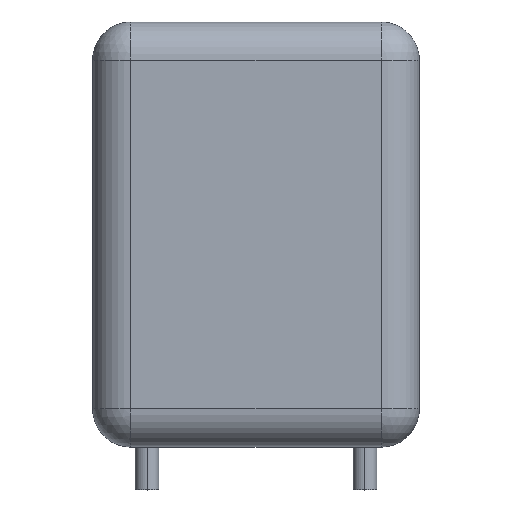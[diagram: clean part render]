
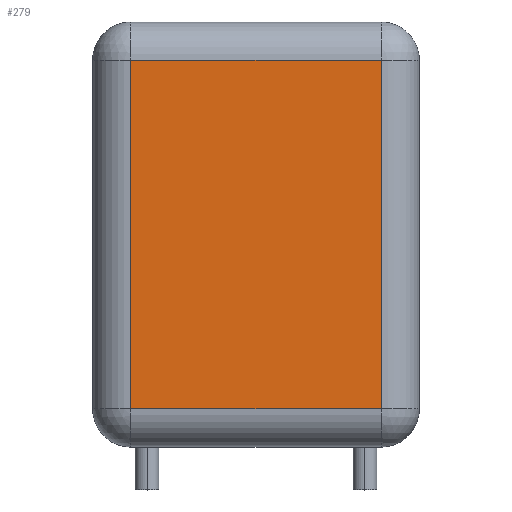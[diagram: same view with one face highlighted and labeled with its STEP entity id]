
A CAD part, top view. The second image highlights one B-rep face of the part: STEP entity #279.
In plain terms, the highlighted planar face has unit normal (0, 0, 1).
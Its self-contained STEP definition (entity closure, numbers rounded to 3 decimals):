
#240 = CARTESIAN_POINT ( 'NONE',  ( -2.915, 0.895, 1.905 ) ) ;
#241 = VERTEX_POINT ( 'NONE', #240 ) ;
#242 = CARTESIAN_POINT ( 'NONE',  ( 2.915, 0.895, 1.905 ) ) ;
#243 = VERTEX_POINT ( 'NONE', #242 ) ;
#244 = CARTESIAN_POINT ( 'NONE',  ( 3.81, 0.895, 1.905 ) ) ;
#245 = DIRECTION ( 'NONE',  ( 1., 0., 0. ) ) ;
#246 = VECTOR ( 'NONE', #245, 1000. ) ;
#247 = LINE ( 'NONE', #244, #246 ) ;
#248 = EDGE_CURVE ( 'NONE', #241, #243, #247, .T. ) ;
#249 = ORIENTED_EDGE ( 'NONE', *, *, #248, .T. ) ;
#250 = CARTESIAN_POINT ( 'NONE',  ( 2.915, 9.015, 1.905 ) ) ;
#251 = VERTEX_POINT ( 'NONE', #250 ) ;
#252 = CARTESIAN_POINT ( 'NONE',  ( 2.915, 9.015, 1.905 ) ) ;
#253 = DIRECTION ( 'NONE',  ( 0., 1., 0. ) ) ;
#254 = VECTOR ( 'NONE', #253, 1000. ) ;
#255 = LINE ( 'NONE', #252, #254 ) ;
#256 = EDGE_CURVE ( 'NONE', #243, #251, #255, .T. ) ;
#257 = ORIENTED_EDGE ( 'NONE', *, *, #256, .T. ) ;
#258 = CARTESIAN_POINT ( 'NONE',  ( -2.915, 9.015, 1.905 ) ) ;
#259 = VERTEX_POINT ( 'NONE', #258 ) ;
#260 = CARTESIAN_POINT ( 'NONE',  ( 3.81, 9.015, 1.905 ) ) ;
#261 = DIRECTION ( 'NONE',  ( -1., 0., 0. ) ) ;
#262 = VECTOR ( 'NONE', #261, 1000. ) ;
#263 = LINE ( 'NONE', #260, #262 ) ;
#264 = EDGE_CURVE ( 'NONE', #251, #259, #263, .T. ) ;
#265 = ORIENTED_EDGE ( 'NONE', *, *, #264, .T. ) ;
#266 = CARTESIAN_POINT ( 'NONE',  ( -2.915, 0., 1.905 ) ) ;
#267 = DIRECTION ( 'NONE',  ( 0., -1., 0. ) ) ;
#268 = VECTOR ( 'NONE', #267, 1000. ) ;
#269 = LINE ( 'NONE', #266, #268 ) ;
#270 = EDGE_CURVE ( 'NONE', #259, #241, #269, .T. ) ;
#271 = ORIENTED_EDGE ( 'NONE', *, *, #270, .T. ) ;
#272 = EDGE_LOOP ( 'NONE', ( #249, #257, #265, #271 ) ) ;
#273 = FACE_OUTER_BOUND ( 'NONE', #272, .T. ) ;
#274 = CARTESIAN_POINT ( 'NONE',  ( 3.81, 0., 1.905 ) ) ;
#275 = DIRECTION ( 'NONE',  ( 0., 0., -1. ) ) ;
#276 = DIRECTION ( 'NONE',  ( -1., 0., 0. ) ) ;
#277 = AXIS2_PLACEMENT_3D ( 'NONE', #274, #275, #276 ) ;
#278 = PLANE ( 'NONE', #277 ) ;
#279 = ADVANCED_FACE ( 'NONE', ( #273 ), #278, .F. ) ;
